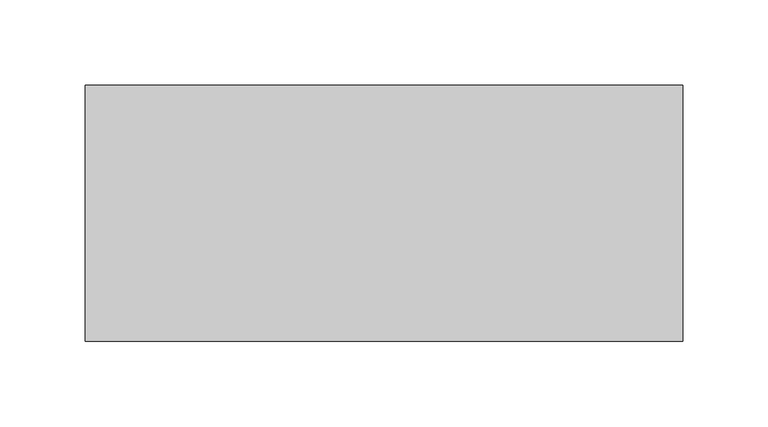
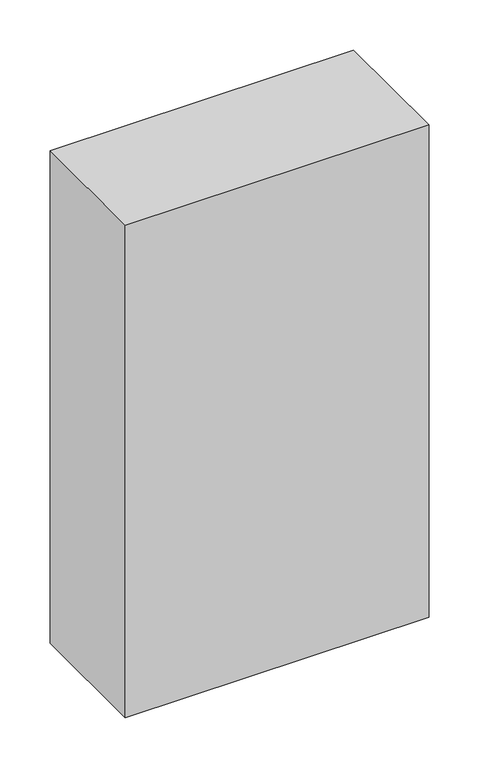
"""IFC4 building model written with IfcOpenShell, lengths in millimetres: proxy geometry, ADSK_Устройство распределения электроэнегрии_Встраиваемое : Ящик с аппаратурой 230В."""

import ifcopenshell
import ifcopenshell.guid

model = None  # the IFC model being written
_history = None  # IfcOwnerHistory: only IFC2X3 demands one
_inside = {}  # id of a spatial element -> (the spatial element, [elements in it])
_under = {}  # id of a project, library or spatial element -> (it, [spatial elements below it])
_declared = {}  # id of a project -> (the project, [libraries it declares])
_typed = {}  # id of a type object -> (the type object, [elements of that type])
_made_of = {}  # id of a material, layer set ... -> (it, [elements and type objects made of it])


def new_model(schema):
    """Start an empty IFC model of exactly this schema.

    Asked for "IFC4X3", IfcOpenShell would pick the latest addendum, in which some entities
    have other attributes; the version numbers below select the first issue.
    IFC2X3 requires an IfcOwnerHistory on every rooted entity: one is made here for all.
    """
    global model, _history
    if schema == "IFC4X3":
        model = ifcopenshell.file(schema_version=(4, 3, 0, 0))
    else:
        model = ifcopenshell.file(schema=schema)
    _inside.clear()
    _under.clear()
    _declared.clear()
    _typed.clear()
    _made_of.clear()
    _history = None
    if model.schema == "IFC2X3":
        org = make("IfcOrganization", Name="unknown")
        user = make(
            "IfcPersonAndOrganization",
            ThePerson=make("IfcPerson", FamilyName="unknown"),
            TheOrganization=org,
        )
        app = make(
            "IfcApplication",
            ApplicationDeveloper=org,
            Version="unknown",
            ApplicationFullName="unknown",
            ApplicationIdentifier="unknown",
        )
        _history = make(
            "IfcOwnerHistory",
            OwningUser=user,
            OwningApplication=app,
            ChangeAction="ADDED",
            CreationDate=0,
        )
    return model


def make(cls, **values):
    """One entity of the class cls with the attributes given. An attribute that is None is left unset."""
    return model.create_entity(
        cls, **{name: value for name, value in values.items() if value is not None}
    )


def rooted(cls, **values):
    """An entity with a GlobalId (a new one), such as an element, a storey or a relation."""
    return make(cls, GlobalId=ifcopenshell.guid.new(), OwnerHistory=_history, **values)


def si_unit(unit_type, name, prefix=None):
    """IfcSIUnit, for example si_unit("LENGTHUNIT", "METRE", prefix="MILLI")."""
    return make("IfcSIUnit", UnitType=unit_type, Prefix=prefix, Name=name)


def assignment(units):
    """IfcUnitAssignment: the units of a project."""
    return None if units is None else make("IfcUnitAssignment", Units=units)


def point(xyz):
    """IfcCartesianPoint."""
    return None if xyz is None else make("IfcCartesianPoint", Coordinates=xyz)


def direction(xyz):
    """IfcDirection."""
    return None if xyz is None else make("IfcDirection", DirectionRatios=xyz)


def frame(location, z_axis=None, x_axis=None):
    """IfcAxis2Placement3D, a coordinate frame: its origin and axes. An axis left out is left unset."""
    return make(
        "IfcAxis2Placement3D",
        Location=point(location),
        Axis=direction(z_axis),
        RefDirection=direction(x_axis),
    )


def origin():
    """The frame at (0, 0, 0) with its axes left unset."""
    return frame((0.0, 0.0, 0.0))


def place(relative_to, where):
    """IfcLocalPlacement: puts the frame where relative to a parent placement (None: the world)."""
    return make(
        "IfcLocalPlacement", PlacementRelTo=relative_to, RelativePlacement=where
    )


def context(
    kind, dimensions, precision=None, world=None, true_north=None, identifier=None
):
    """IfcGeometricRepresentationContext, for example the 3D "Model" context."""
    return make(
        "IfcGeometricRepresentationContext",
        ContextIdentifier=identifier,
        ContextType=kind,
        CoordinateSpaceDimension=dimensions,
        Precision=precision,
        WorldCoordinateSystem=world,
        TrueNorth=true_north,
    )


def project(units=None, contexts=None):
    """IfcProject with its units and contexts."""
    return rooted(
        "IfcProject",
        Name="project",
        RepresentationContexts=contexts,
        UnitsInContext=assignment(units),
    )


def spatial(cls, under=None, at=None, **own):
    """A site, building, storey or space (cls), placed at a placement, below another one or the project."""
    s = rooted(cls, ObjectPlacement=at, **own)
    if under is not None:
        _under.setdefault(under.id(), (under, []))[1].append(s)
    return s


def polyline(points):
    """IfcPolyline through the points."""
    return make("IfcPolyline", Points=[point(p) for p in points])


def outline(outer, holes=None, kind="AREA"):
    """IfcArbitraryClosedProfileDef: a profile drawn as a closed curve; with holes, ...WithVoids."""
    if holes is None:
        return make("IfcArbitraryClosedProfileDef", ProfileType=kind, OuterCurve=outer)
    return make(
        "IfcArbitraryProfileDefWithVoids",
        ProfileType=kind,
        OuterCurve=outer,
        InnerCurves=holes,
    )


def extrude(swept, where, along, depth):
    """IfcExtrudedAreaSolid: the profile swept, set in the frame where, extruded along a direction by depth."""
    return make(
        "IfcExtrudedAreaSolid",
        SweptArea=swept,
        Position=where,
        ExtrudedDirection=direction(along),
        Depth=depth,
    )


def shape(context_of_items, identifier, shape_type, items):
    """IfcShapeRepresentation: the items that make up one representation, for example the "Body"."""
    return make(
        "IfcShapeRepresentation",
        ContextOfItems=context_of_items,
        RepresentationIdentifier=identifier,
        RepresentationType=shape_type,
        Items=items,
    )


def source(mapping_origin, context_of_items, identifier, shape_type, items):
    """IfcRepresentationMap: a shape defined once, which mapped items show again and again."""
    return make(
        "IfcRepresentationMap",
        MappingOrigin=mapping_origin,
        MappedRepresentation=shape(context_of_items, identifier, shape_type, items),
    )


def transform(
    local_origin,
    x_axis=None,
    y_axis=None,
    z_axis=None,
    scale=None,
    scale2=None,
    scale3=None,
    uniform=True,
):
    """IfcCartesianTransformationOperator3D, or its non-uniform kind. x_axis, y_axis, z_axis: its Axis1, 2, 3."""
    if uniform:
        return make(
            "IfcCartesianTransformationOperator3D",
            Axis1=direction(x_axis),
            Axis2=direction(y_axis),
            LocalOrigin=point(local_origin),
            Scale=scale,
            Axis3=direction(z_axis),
        )
    return make(
        "IfcCartesianTransformationOperator3DnonUniform",
        Axis1=direction(x_axis),
        Axis2=direction(y_axis),
        LocalOrigin=point(local_origin),
        Scale=scale,
        Axis3=direction(z_axis),
        Scale2=scale2,
        Scale3=scale3,
    )


def mapped(mapping_source, mapping_target):
    """IfcMappedItem: shows the shape of a source again, moved by a transform."""
    return make(
        "IfcMappedItem", MappingSource=mapping_source, MappingTarget=mapping_target
    )


def made_of(thing, what):
    """Note that an element or type object is made of a material, layer set ...; save() writes the relation."""
    if what is not None:
        _made_of.setdefault(what.id(), (what, []))[1].append(thing)
    return thing


def element(
    cls,
    number,
    at=None,
    inside=None,
    cuts=None,
    type_object=None,
    material=None,
    context=None,
    identifier="Body",
    shape_type=None,
    held_by="IfcProductDefinitionShape",
    body=None,
    shapes=None,
    **own,
):
    """One element of the class cls, such as IfcWall. Its Tag is "e" and its number.

    at: its placement. inside: the storey or other place that contains it. cuts: it is an
    opening in that element (IfcRelVoidsElement). A single representation is given by context,
    identifier, shape_type and body (its items); several are given by shapes. held_by: the class
    of the entity that holds the representations. save() writes the other relations.
    """
    e = rooted(cls, Tag="e%d" % number, ObjectPlacement=at, **own)
    if body is not None:
        shapes = [shape(context, identifier, shape_type, body)]
    if shapes is not None:
        e.Representation = make(held_by, Representations=shapes)
    if inside is not None:
        _inside.setdefault(inside.id(), (inside, []))[1].append(e)
    if cuts is not None:
        rooted(
            "IfcRelVoidsElement", RelatingBuildingElement=cuts, RelatedOpeningElement=e
        )
    if type_object is not None:
        _typed.setdefault(type_object.id(), (type_object, []))[1].append(e)
    return made_of(e, material)


def aggregate(whole, parts):
    """IfcRelAggregates: a whole, such as a stair, and the parts it consists of."""
    return rooted("IfcRelAggregates", RelatingObject=whole, RelatedObjects=parts)


def save(model, path):
    """Write the relations noted so far, then the file.

    IfcRelAggregates (storeys below a building ...), IfcRelContainedInSpatialStructure (elements
    in a storey), IfcRelDefinesByType, IfcRelAssociatesMaterial and IfcRelDeclares: one each for
    every whole, place, type object, material and project.
    """
    for whole, parts in _under.values():
        aggregate(whole, parts)
    for where, things in _inside.values():
        rooted(
            "IfcRelContainedInSpatialStructure",
            RelatedElements=things,
            RelatingStructure=where,
        )
    for kind, things in _typed.values():
        rooted("IfcRelDefinesByType", RelatedObjects=things, RelatingType=kind)
    for what, things in _made_of.values():
        rooted("IfcRelAssociatesMaterial", RelatedObjects=things, RelatingMaterial=what)
    for by, libraries in _declared.values():
        rooted("IfcRelDeclares", RelatingContext=by, RelatedDefinitions=libraries)
    model.write(path)


def electrical_equipment_5fdf8ca9(model_context):
    return source(origin(), model_context, "Body", "SweptSolid", [
        extrude(outline(polyline([(175.0, -150.0), (-175.0, -150.0), (-175.0, 0.0), (175.0, 0.0), (175.0, -150.0)])), frame((0.0, 0.0, -600.0), z_axis=(0.0, 0.0, 1.0), x_axis=(1.0, 0.0, 0.0)), (0.0, 0.0, 1.0), 600.0),
    ])


if __name__ == "__main__":
    model = new_model("IFC4")
    model_context = context("Model", 3, world=origin())
    ifc_project = project(units=[si_unit("LENGTHUNIT", "METRE", prefix="MILLI")], contexts=[model_context])
    site = spatial("IfcSite", under=ifc_project)
    building = spatial("IfcBuilding", under=site)
    placement = place(None, origin())
    electrical_equipment_shape = electrical_equipment_5fdf8ca9(model_context)
    element("IfcBuildingElementProxy", 1, Name="ADSK_Устройство распределения электроэнегрии_Встраиваемое : Ящик с аппаратурой 230В", ObjectType="ADSK_Устройство распределения электроэнегрии_Встраиваемое : Ящик с аппаратурой 230В", at=placement, inside=building, context=model_context, shape_type="MappedRepresentation", body=[
        mapped(electrical_equipment_shape, transform((0.0, 0.0, 0.0), x_axis=(1.0, 0.0, 0.0), y_axis=(0.0, 1.0, 0.0), z_axis=(0.0, 0.0, 1.0))),
    ])
    save(model, "model.ifc")
